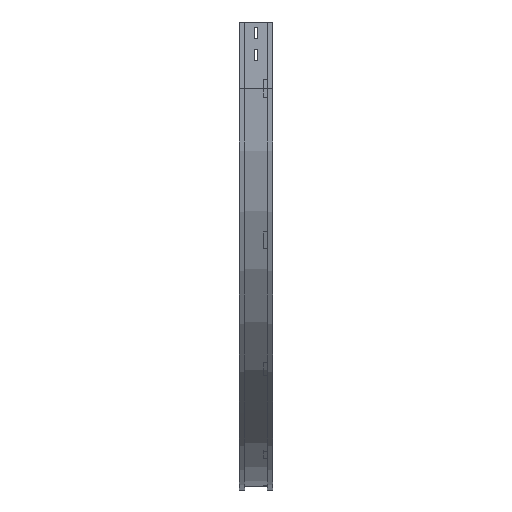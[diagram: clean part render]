
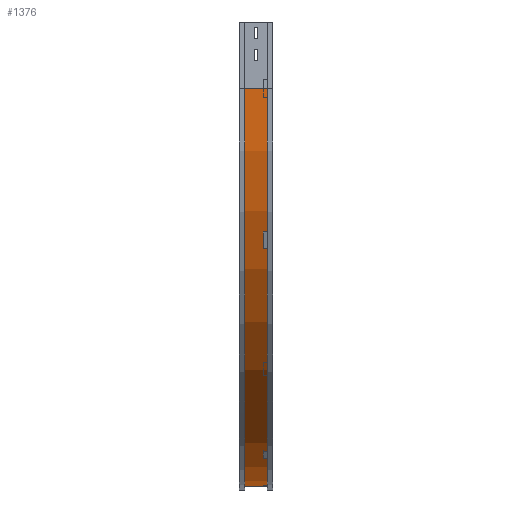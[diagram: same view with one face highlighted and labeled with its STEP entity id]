
A CAD part, left-side view. The second image highlights one B-rep face of the part: STEP entity #1376.
In plain terms, the highlighted cylindrical face has radius 900 mm (diameter 1800 mm), a partial arc.
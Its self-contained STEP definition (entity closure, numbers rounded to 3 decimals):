
#9 = EDGE_CURVE ( 'NONE', #1948, #1970, #406, .T. ) ;
#14 = EDGE_CURVE ( 'NONE', #1948, #1166, #2193, .T. ) ;
#84 = EDGE_CURVE ( 'NONE', #1970, #1395, #258, .T. ) ;
#206 = CARTESIAN_POINT ( 'NONE',  ( 909., 12., -150. ) ) ;
#258 = CIRCLE ( 'NONE', #1040, 900. ) ;
#289 = CARTESIAN_POINT ( 'NONE',  ( 909., 12., -1050. ) ) ;
#406 = LINE ( 'NONE', #986, #1917 ) ;
#565 = ORIENTED_EDGE ( 'NONE', *, *, #1487, .T. ) ;
#677 = DIRECTION ( 'NONE',  ( 0., -1., 0. ) ) ;
#684 = DIRECTION ( 'NONE',  ( 0., -1., 0. ) ) ;
#712 = CARTESIAN_POINT ( 'NONE',  ( 909., 63., -150. ) ) ;
#751 = DIRECTION ( 'NONE',  ( -1., 0., 0. ) ) ;
#843 = AXIS2_PLACEMENT_3D ( 'NONE', #1318, #684, #2822 ) ;
#986 = CARTESIAN_POINT ( 'NONE',  ( 9., 12., -150. ) ) ;
#991 = LINE ( 'NONE', #1796, #1454 ) ;
#1040 = AXIS2_PLACEMENT_3D ( 'NONE', #206, #1258, #751 ) ;
#1166 = VERTEX_POINT ( 'NONE', #1891 ) ;
#1258 = DIRECTION ( 'NONE',  ( 0., -1., 0. ) ) ;
#1318 = CARTESIAN_POINT ( 'NONE',  ( 909., 0., -150. ) ) ;
#1376 = ADVANCED_FACE ( 'NONE', ( #1490 ), #1746, .T. ) ;
#1395 = VERTEX_POINT ( 'NONE', #289 ) ;
#1454 = VECTOR ( 'NONE', #1584, 1000. ) ;
#1487 = EDGE_CURVE ( 'NONE', #1166, #1395, #991, .T. ) ;
#1490 = FACE_OUTER_BOUND ( 'NONE', #2415, .T. ) ;
#1529 = AXIS2_PLACEMENT_3D ( 'NONE', #712, #677, #3075 ) ;
#1584 = DIRECTION ( 'NONE',  ( 0., -1., 0. ) ) ;
#1598 = ORIENTED_EDGE ( 'NONE', *, *, #14, .T. ) ;
#1711 = ORIENTED_EDGE ( 'NONE', *, *, #84, .F. ) ;
#1746 = CYLINDRICAL_SURFACE ( 'NONE', #843, 900. ) ;
#1796 = CARTESIAN_POINT ( 'NONE',  ( 909., 12., -1050. ) ) ;
#1891 = CARTESIAN_POINT ( 'NONE',  ( 909., 63., -1050. ) ) ;
#1917 = VECTOR ( 'NONE', #2031, 1000. ) ;
#1948 = VERTEX_POINT ( 'NONE', #2690 ) ;
#1970 = VERTEX_POINT ( 'NONE', #3317 ) ;
#2031 = DIRECTION ( 'NONE',  ( 0., -1., 0. ) ) ;
#2042 = ORIENTED_EDGE ( 'NONE', *, *, #9, .F. ) ;
#2193 = CIRCLE ( 'NONE', #1529, 900. ) ;
#2415 = EDGE_LOOP ( 'NONE', ( #1711, #2042, #1598, #565 ) ) ;
#2690 = CARTESIAN_POINT ( 'NONE',  ( 9., 63., -150. ) ) ;
#2822 = DIRECTION ( 'NONE',  ( 0., 0., -1. ) ) ;
#3075 = DIRECTION ( 'NONE',  ( -1., 0., 0. ) ) ;
#3317 = CARTESIAN_POINT ( 'NONE',  ( 9., 12., -150. ) ) ;
